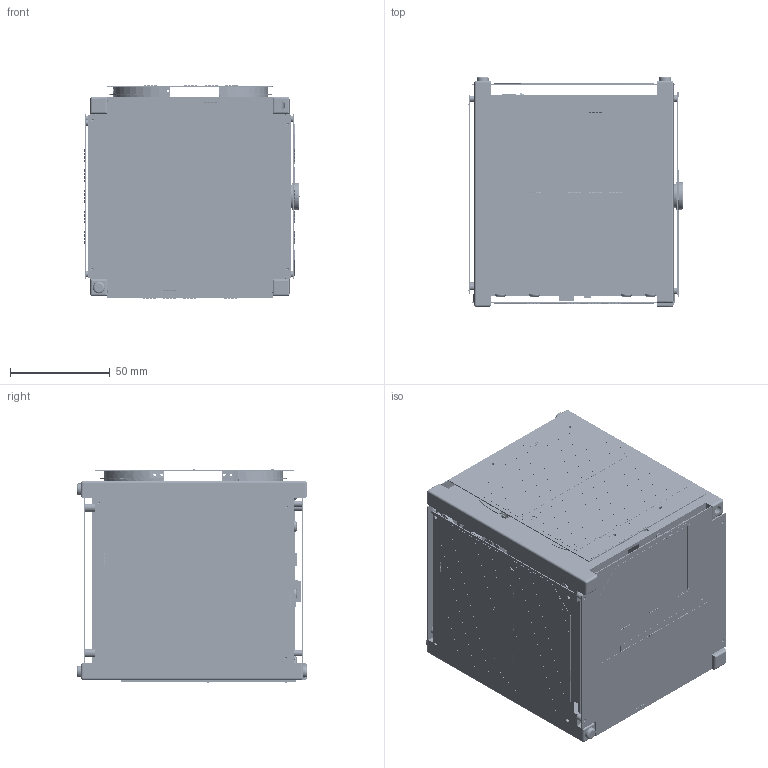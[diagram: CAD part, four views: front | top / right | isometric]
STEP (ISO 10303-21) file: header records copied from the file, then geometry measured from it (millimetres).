
FILE_DESCRIPTION((''),'2;1');
FILE_NAME('NEXUS_ASM_ASM','2020-03-08T',('g0715'),(''),'PRO/ENGINEER BY PARAMETRIC TECHNOLOGY CORPORATION, 2014090','PRO/ENGINEER BY PARAMETRIC TECHNOLOGY CORPORATION, 2014090','');
FILE_SCHEMA(('CONFIG_CONTROL_DESIGN'));
Products named in the file (218): NEXUS_DATA_PORT; TRUSS; ANTTENA_SIDE_NEXUS_3; ANNTENA_JIGU_A; ANNTENA_JIGU_1200_2; ANNTENA_JIGU_A2; ANNTENA_JIGU_A_2; FLIGHT_SWITCH_VER01; ANTENA_SIDE_ASM; MOTHER_BOARD_AF0; BATTERY_BOX; BATTERY_CGA-E_111; NISIMUSENN_TX_NORMAL; RECEIVER_BOX; RECIVER_BOX_LID; RECIVER_ASM; 7542_1; 7542_2; 7542_3; MCX_RF_ASM; S12B-PH-K-S; NISHIMUSENN_ASM; BATTERY_BOX_LID_2012_6_1; TORAPON_BOARD; TRAPON_COVER_N; NEZI_M2_L5; NUT_M2; BATTERYBOX_LID_ASM; BATTERY_BOX_ASM; SLOT_A_AF0; NEZI_M3; SLOT_A; C_BOARD_NEXUS; BD4834; CMS04; SM02B-PASS; B2PS-VH; SM09B-SRSS-TB; 2SA1451A; EMR422K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
Assembly tree (450 placements, depth 9):
  NEXUS_ASM_ASM
    NEXUS_DATA_PORT
    TRUSS
    ANTENA_SIDE_ASM
      ANTTENA_SIDE_NEXUS_3
      ANNTENA_JIGU_A
      ANNTENA_JIGU_1200_2
      ANNTENA_JIGU_A2
      ANNTENA_JIGU_A_2
      FLIGHT_SWITCH_VER01
    SYSTEM_ASM_ASM
      MOTHER_BOARD_AF0
      BATTERY_BOX_ASM
        BATTERY_BOX
        BATTERY_CGA-E_111  x4
        NISHIMUSENN_ASM
          NISIMUSENN_TX_NORMAL
          RECIVER_ASM
            RECEIVER_BOX
            RECIVER_BOX_LID
          MCX_RF_ASM  x3
            7542_1
            7542_2
            7542_3
          S12B-PH-K-S
        BATTERYBOX_LID_ASM
          BATTERY_BOX_LID_2012_6_1
          TORAPON_BOARD
          TRAPON_COVER_N
          NEZI_M2_L5  x8
          NUT_M2  x16
        MCX_RF_ASM
          7542_1
          7542_2
          7542_3
      SLOT_A_AF0
      NEZI_M3  x7
      SLOT_A  x2
      C_BOARD_ASM_ASM
        C_BOARD_NEXUS
        BD4834
        CMS04  x4
        SM02B-PASS  x10
        B2PS-VH  x4
        SM09B-SRSS-TB
        2SA1451A
        EMR422K
        SM04B-SRSS-TB  x4
        ATK109  x5
        10UH  x3
        LT1371  x3
        MBRS320  x3
        LTC3533
        6_8UH
        BD4837
        SM05B-SRSS-TB  x2
        MM1433
        20MHZ
        PIC16F877
        VH-2N
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Bounding box: 107.98 x 115.5 x 107.42 mm (x, y, z)
Volume: 398957.1 mm3; surface area: 601249.7 mm2
Topology: 522 solids, 667 shells, 25004 faces, 68705 edges, 45338 vertices
Faces by surface type: plane 19988, cylinder 4371, cone 276, torus 223, bspline 58, sphere 42, extrusion 30, revolution 16
Entity records: 345335 total; most frequent: CARTESIAN_POINT 66022, ORIENTED_EDGE 56976, DIRECTION 56074, EDGE_CURVE 28772, VECTOR 23868, LINE 23840, VERTEX_POINT 18970, AXIS2_PLACEMENT_3D 16095
